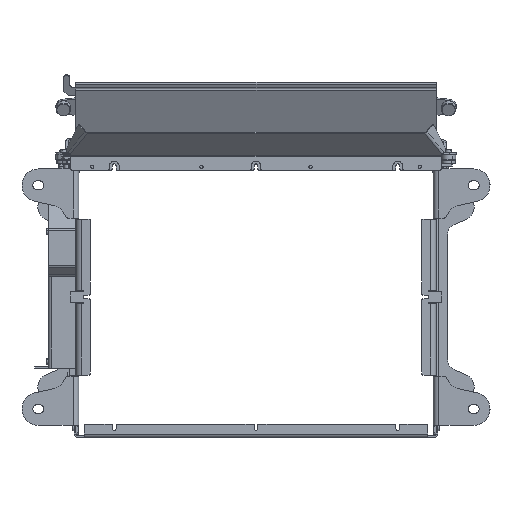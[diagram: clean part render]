
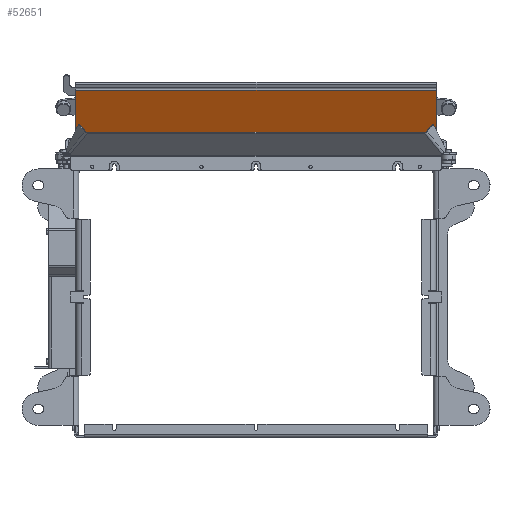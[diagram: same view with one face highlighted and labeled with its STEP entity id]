
A CAD part, front view. The second image highlights one B-rep face of the part: STEP entity #52651.
In plain terms, the highlighted planar face has unit normal (0, -0.882, -0.471).
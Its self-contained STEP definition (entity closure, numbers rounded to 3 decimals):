
#242 = DIRECTION ( 'NONE',  ( 0., 0.471, -0.882 ) ) ;
#383 = VERTEX_POINT ( 'NONE', #34676 ) ;
#3038 = DIRECTION ( 'NONE',  ( 0., -0.882, -0.471 ) ) ;
#3155 = VECTOR ( 'NONE', #43861, 1000. ) ;
#4111 = FACE_OUTER_BOUND ( 'NONE', #21585, .T. ) ;
#6493 = CARTESIAN_POINT ( 'NONE',  ( -165., 66.824, 73.306 ) ) ;
#6654 = EDGE_CURVE ( 'NONE', #383, #56601, #16670, .T. ) ;
#9403 = CARTESIAN_POINT ( 'NONE',  ( -165., 64., 78.6 ) ) ;
#10929 = LINE ( 'NONE', #9403, #38043 ) ;
#12823 = VERTEX_POINT ( 'NONE', #36223 ) ;
#13167 = CARTESIAN_POINT ( 'NONE',  ( -165., 98.588, 13.747 ) ) ;
#16415 = EDGE_CURVE ( 'NONE', #56601, #27810, #38006, .T. ) ;
#16670 = LINE ( 'NONE', #39276, #3155 ) ;
#17857 = ORIENTED_EDGE ( 'NONE', *, *, #55557, .T. ) ;
#20488 = DIRECTION ( 'NONE',  ( -1., 0., 0. ) ) ;
#21296 = CARTESIAN_POINT ( 'NONE',  ( 0., 81.294, 46.174 ) ) ;
#21585 = EDGE_LOOP ( 'NONE', ( #46157, #54904, #17857, #40091 ) ) ;
#25908 = DIRECTION ( 'NONE',  ( -1., 0., 0. ) ) ;
#27810 = VERTEX_POINT ( 'NONE', #6493 ) ;
#29053 = CARTESIAN_POINT ( 'NONE',  ( 165., 66.824, 73.306 ) ) ;
#34676 = CARTESIAN_POINT ( 'NONE',  ( 165., 98.588, 13.747 ) ) ;
#36067 = DIRECTION ( 'NONE',  ( 1., 0., 0. ) ) ;
#36223 = CARTESIAN_POINT ( 'NONE',  ( -165., 98.588, 13.747 ) ) ;
#38006 = LINE ( 'NONE', #29053, #50879 ) ;
#38043 = VECTOR ( 'NONE', #242, 1000. ) ;
#39276 = CARTESIAN_POINT ( 'NONE',  ( 165., 64., 78.6 ) ) ;
#40091 = ORIENTED_EDGE ( 'NONE', *, *, #6654, .T. ) ;
#40135 = CARTESIAN_POINT ( 'NONE',  ( 165., 66.824, 73.306 ) ) ;
#42968 = LINE ( 'NONE', #13167, #52228 ) ;
#43861 = DIRECTION ( 'NONE',  ( 0., -0.471, 0.882 ) ) ;
#46157 = ORIENTED_EDGE ( 'NONE', *, *, #16415, .T. ) ;
#48375 = EDGE_CURVE ( 'NONE', #27810, #12823, #10929, .T. ) ;
#50879 = VECTOR ( 'NONE', #20488, 1000. ) ;
#52228 = VECTOR ( 'NONE', #36067, 1000. ) ;
#52651 = ADVANCED_FACE ( 'NONE', ( #4111 ), #57705, .T. ) ;
#54904 = ORIENTED_EDGE ( 'NONE', *, *, #48375, .T. ) ;
#55557 = EDGE_CURVE ( 'NONE', #12823, #383, #42968, .T. ) ;
#56601 = VERTEX_POINT ( 'NONE', #40135 ) ;
#57225 = AXIS2_PLACEMENT_3D ( 'NONE', #21296, #3038, #25908 ) ;
#57705 = PLANE ( 'NONE',  #57225 ) ;
